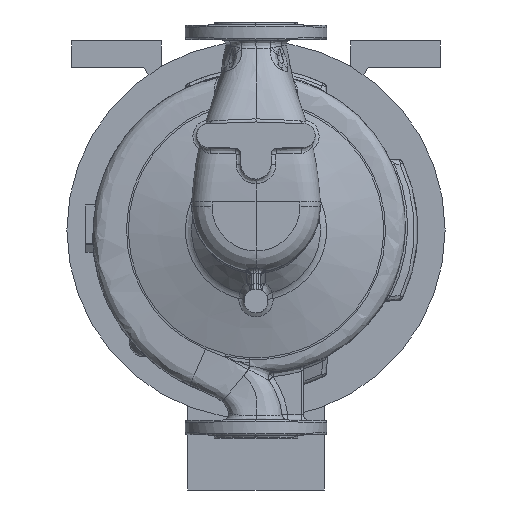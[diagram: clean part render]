
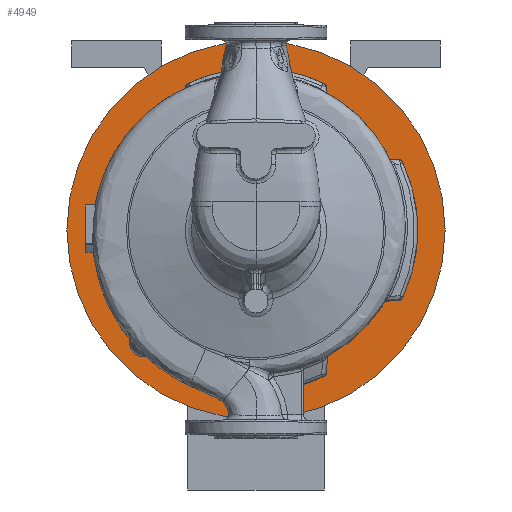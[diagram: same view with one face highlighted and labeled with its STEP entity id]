
A CAD part, front view. The second image highlights one B-rep face of the part: STEP entity #4949.
In plain terms, the highlighted planar face has unit normal (0, -1, 0).
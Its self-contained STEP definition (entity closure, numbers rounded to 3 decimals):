
#432 = ORIENTED_EDGE ( 'NONE', *, *, #19418, .T. ) ;
#4624 = DIRECTION ( 'NONE',  ( 0., -1., 0. ) ) ;
#4949 = ADVANCED_FACE ( 'NONE', ( #16419, #41656 ), #37755, .F. ) ;
#6186 = CIRCLE ( 'NONE', #44524, 200. ) ;
#8025 = ORIENTED_EDGE ( 'NONE', *, *, #27166, .F. ) ;
#8328 = EDGE_CURVE ( 'NONE', #41636, #54263, #39336, .T. ) ;
#8960 = CARTESIAN_POINT ( 'NONE',  ( 0., 222.3, 0. ) ) ;
#9450 = ORIENTED_EDGE ( 'NONE', *, *, #8328, .T. ) ;
#13044 = EDGE_LOOP ( 'NONE', ( #9450, #432 ) ) ;
#13216 = CARTESIAN_POINT ( 'NONE',  ( 0., 222.3, 0. ) ) ;
#13712 = CIRCLE ( 'NONE', #20700, 100. ) ;
#15853 = DIRECTION ( 'NONE',  ( 0., -1., 0. ) ) ;
#16419 = FACE_BOUND ( 'NONE', #19888, .T. ) ;
#19418 = EDGE_CURVE ( 'NONE', #54263, #41636, #6186, .T. ) ;
#19470 = DIRECTION ( 'NONE',  ( -1., 0., 0. ) ) ;
#19888 = EDGE_LOOP ( 'NONE', ( #8025, #48632 ) ) ;
#20700 = AXIS2_PLACEMENT_3D ( 'NONE', #8960, #23822, #47043 ) ;
#21027 = DIRECTION ( 'NONE',  ( -1., 0., 0. ) ) ;
#23654 = CARTESIAN_POINT ( 'NONE',  ( 0., 222.3, -100. ) ) ;
#23822 = DIRECTION ( 'NONE',  ( 0., -1., 0. ) ) ;
#27166 = EDGE_CURVE ( 'NONE', #55615, #32737, #13712, .T. ) ;
#27753 = CARTESIAN_POINT ( 'NONE',  ( 200., 222.3, 0. ) ) ;
#32619 = EDGE_CURVE ( 'NONE', #32737, #55615, #36571, .T. ) ;
#32737 = VERTEX_POINT ( 'NONE', #47249 ) ;
#33611 = CARTESIAN_POINT ( 'NONE',  ( 0., 222.3, 0. ) ) ;
#36571 = CIRCLE ( 'NONE', #58088, 100. ) ;
#37755 = PLANE ( 'NONE',  #50106 ) ;
#37971 = DIRECTION ( 'NONE',  ( 1., 0., 0. ) ) ;
#39336 = CIRCLE ( 'NONE', #49066, 200. ) ;
#39706 = CARTESIAN_POINT ( 'NONE',  ( 0., 222.3, 0. ) ) ;
#41377 = DIRECTION ( 'NONE',  ( -1., 0., 0. ) ) ;
#41636 = VERTEX_POINT ( 'NONE', #49150 ) ;
#41656 = FACE_OUTER_BOUND ( 'NONE', #13044, .T. ) ;
#44524 = AXIS2_PLACEMENT_3D ( 'NONE', #13216, #51686, #41377 ) ;
#47043 = DIRECTION ( 'NONE',  ( -1., 0., 0. ) ) ;
#47249 = CARTESIAN_POINT ( 'NONE',  ( 100., 222.3, 0. ) ) ;
#48632 = ORIENTED_EDGE ( 'NONE', *, *, #32619, .F. ) ;
#49066 = AXIS2_PLACEMENT_3D ( 'NONE', #39706, #15853, #21027 ) ;
#49150 = CARTESIAN_POINT ( 'NONE',  ( -200., 222.3, 0. ) ) ;
#50106 = AXIS2_PLACEMENT_3D ( 'NONE', #23654, #56799, #37971 ) ;
#51686 = DIRECTION ( 'NONE',  ( 0., -1., 0. ) ) ;
#54263 = VERTEX_POINT ( 'NONE', #27753 ) ;
#55615 = VERTEX_POINT ( 'NONE', #58023 ) ;
#56799 = DIRECTION ( 'NONE',  ( 0., 1., 0. ) ) ;
#58023 = CARTESIAN_POINT ( 'NONE',  ( -100., 222.3, 0. ) ) ;
#58088 = AXIS2_PLACEMENT_3D ( 'NONE', #33611, #4624, #19470 ) ;
